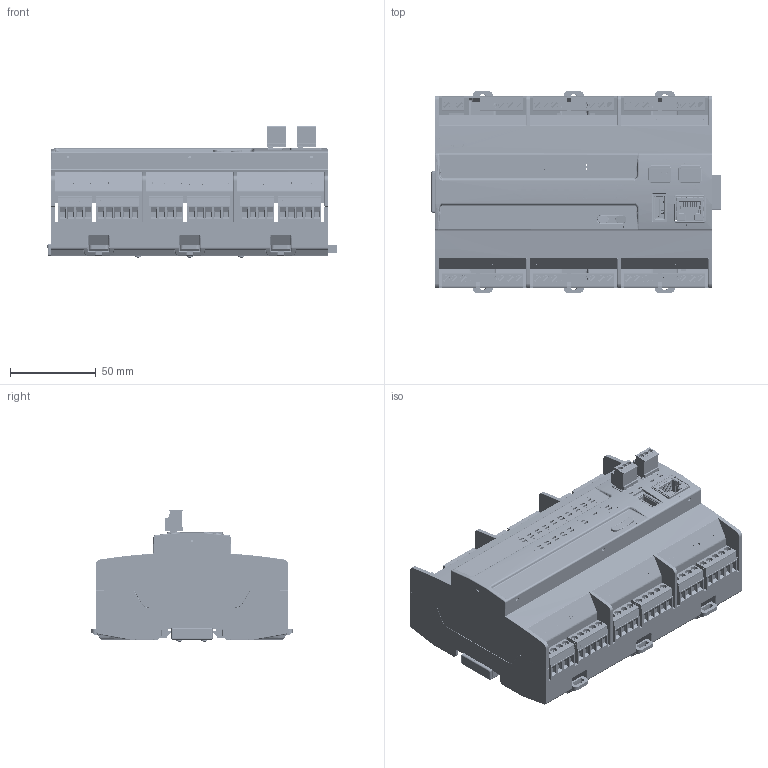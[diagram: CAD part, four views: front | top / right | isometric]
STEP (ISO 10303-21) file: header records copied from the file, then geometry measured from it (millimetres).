
FILE_DESCRIPTION (( 'STEP AP214' ), '1' );
FILE_NAME ('CPU-1.STEP', '2020-11-06T12:05:56', ( '' ), ( '' ), 'SwSTEP 2.0', 'SolidWorks 2018', '' );
FILE_SCHEMA (( 'AUTOMOTIVE_DESIGN' ));
Length unit declared in the file: millimetre
Products named in the file (1): CPU-1
Bounding box: 168.29 x 117.13 x 77.16 mm (x, y, z)
Surface area: 129782.8 mm2 (no closed solid volume)
Topology: 0 solids, 672 shells, 3907 faces, 28592 edges, 25068 vertices
Faces by surface type: plane 2402, cylinder 994, bspline 196, torus 185, cone 85, sphere 45
Full cylindrical faces by diameter (mm): 0.609 x2, 2.8 x11, 2.9 x6, 3.5 x3, 4 x55, 5.5 x2
Entity records: 361234 total; most frequent: CARTESIAN_POINT 122483, DIRECTION 35221, ORIENTED_EDGE 34799, EDGE_CURVE 28437, VERTEX_POINT 25054, LINE 16393, VECTOR 16393, AXIS2_PLACEMENT_3D 9414
